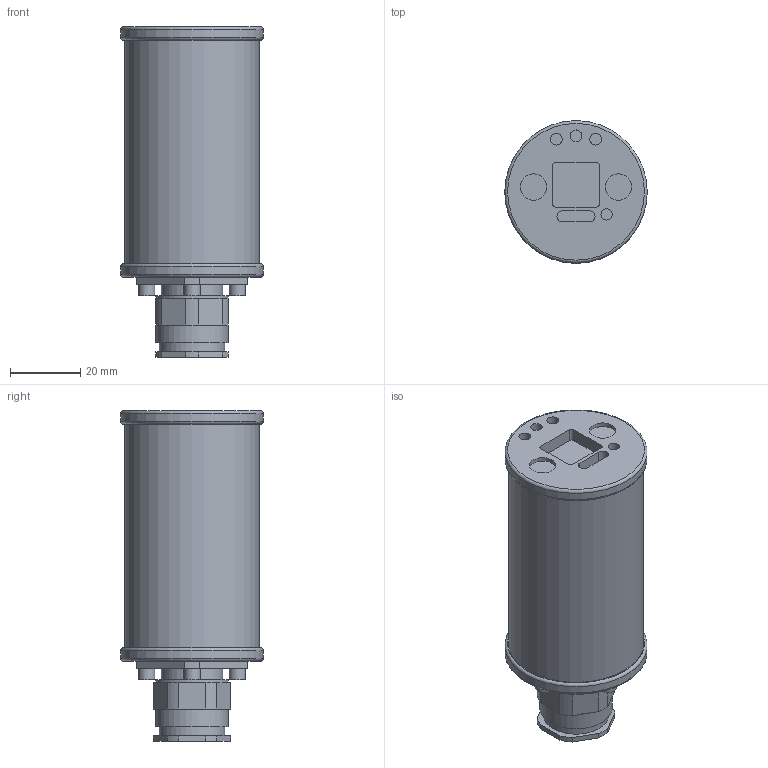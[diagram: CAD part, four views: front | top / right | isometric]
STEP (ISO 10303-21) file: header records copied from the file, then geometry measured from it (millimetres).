
FILE_DESCRIPTION(/* description */ (''),/* implementation_level */ '2;1');
FILE_NAME(/* name */ 'NewLB478_479_480_TYPE-N_Male.step',/* time_stamp */ '2023-10-13T16:29:39-05:00',/* author */ (''),/* organization */ (''),/* preprocessor_version */ 'ST-DEVELOPER v20',/* originating_system */ 'Autodesk Translation Framework v12.9.0.99',/* authorisation */ '');
FILE_SCHEMA (('AUTOMOTIVE_DESIGN { 1 0 10303 214 3 1 1 }'));
Length unit declared in the file: inch
Products named in the file (2): (Unsaved); TYPE_N v2
Assembly tree (1 placements, depth 2):
  (Unsaved)
    TYPE_N v2
Bounding box: 40.44 x 40.44 x 93.85 mm (x, y, z)
Volume: 89995.4 mm3; surface area: 15362.6 mm2
Topology: 2 solids, 2 shells, 127 faces, 280 edges, 186 vertices
Faces by surface type: plane 79, cylinder 44, torus 4
Full cylindrical faces by diameter (mm): 3.175 x1, 3.2 x4, 3.354 x2, 3.365 x1, 4.572 x4, 7.493 x2, 16.129 x1, 17.399 x1, 18.542 x1, 20.574 x2, 38.354 x1, 40.437 x2
Entity records: 3579 total; most frequent: DIRECTION 638, CARTESIAN_POINT 596, ORIENTED_EDGE 560, EDGE_CURVE 280, AXIS2_PLACEMENT_3D 228, VERTEX_POINT 186, LINE 182, VECTOR 182
